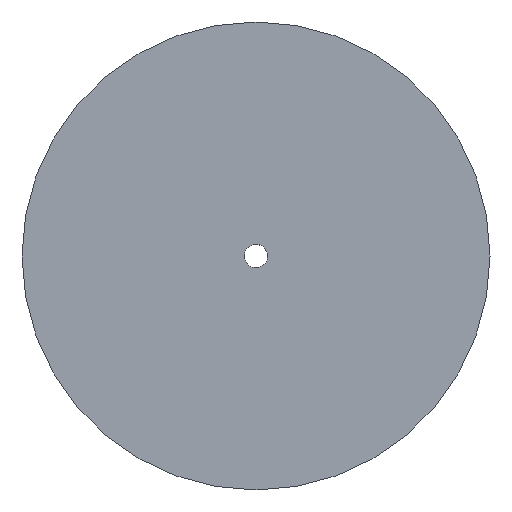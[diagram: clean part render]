
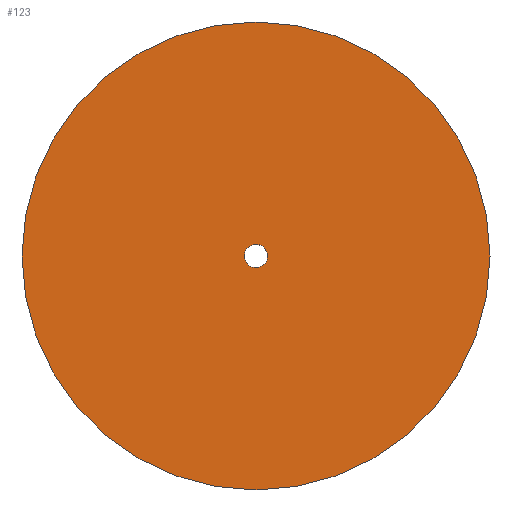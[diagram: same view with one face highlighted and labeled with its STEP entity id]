
A CAD part, top view. The second image highlights one B-rep face of the part: STEP entity #123.
In plain terms, the highlighted planar face has unit normal (0, 0, 1).
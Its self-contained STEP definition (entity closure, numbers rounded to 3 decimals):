
#62=CARTESIAN_POINT('Vertex',(-2.852,1.558,0.)) ;
#76=CARTESIAN_POINT('Vertex',(2.852,-1.558,0.)) ;
#79=CARTESIAN_POINT('Axis2P3D Location',(0.,0.,0.)) ;
#91=CARTESIAN_POINT('Axis2P3D Location',(0.,0.,0.)) ;
#96=CARTESIAN_POINT('Axis2P3D Location',(0.,0.,0.)) ;
#100=CARTESIAN_POINT('Vertex',(65.,0.,0.)) ;
#102=CARTESIAN_POINT('Vertex',(-65.,0.,0.)) ;
#105=CARTESIAN_POINT('Axis2P3D Location',(0.,0.,0.)) ;
#114=CARTESIAN_POINT('Axis2P3D Location',(0.,0.,0.)) ;
#80=DIRECTION('Axis2P3D Direction',(0.,-0.,-1.)) ;
#92=DIRECTION('Axis2P3D Direction',(0.,0.,1.)) ;
#93=DIRECTION('Axis2P3D XDirection',(1.,0.,0.)) ;
#97=DIRECTION('Axis2P3D Direction',(0.,0.,1.)) ;
#106=DIRECTION('Axis2P3D Direction',(0.,0.,1.)) ;
#115=DIRECTION('Axis2P3D Direction',(0.,0.,1.)) ;
#81=AXIS2_PLACEMENT_3D('Circle Axis2P3D',#79,#80,$) ;
#94=AXIS2_PLACEMENT_3D('Plane Axis2P3D',#91,#92,#93) ;
#98=AXIS2_PLACEMENT_3D('Circle Axis2P3D',#96,#97,$) ;
#107=AXIS2_PLACEMENT_3D('Circle Axis2P3D',#105,#106,$) ;
#116=AXIS2_PLACEMENT_3D('Circle Axis2P3D',#114,#115,$) ;
#111=ORIENTED_EDGE('',*,*,#104,.F.) ;
#112=ORIENTED_EDGE('',*,*,#109,.F.) ;
#120=ORIENTED_EDGE('',*,*,#118,.F.) ;
#121=ORIENTED_EDGE('',*,*,#83,.F.) ;
#122=FACE_BOUND('',#119,.T.) ;
#123=ADVANCED_FACE('PartBody',(#113,#122),#95,.T.) ;
#82=CIRCLE('generated circle',#81,3.25) ;
#99=CIRCLE('generated circle',#98,65.) ;
#108=CIRCLE('generated circle',#107,65.) ;
#117=CIRCLE('generated circle',#116,3.25) ;
#83=EDGE_CURVE('',#77,#63,#82,.F.) ;
#104=EDGE_CURVE('',#101,#103,#99,.F.) ;
#109=EDGE_CURVE('',#103,#101,#108,.F.) ;
#118=EDGE_CURVE('',#63,#77,#117,.T.) ;
#110=EDGE_LOOP('',(#111,#112)) ;
#119=EDGE_LOOP('',(#120,#121)) ;
#113=FACE_OUTER_BOUND('',#110,.T.) ;
#95=PLANE('',#94) ;
#63=VERTEX_POINT('',#62) ;
#77=VERTEX_POINT('',#76) ;
#101=VERTEX_POINT('',#100) ;
#103=VERTEX_POINT('',#102) ;
